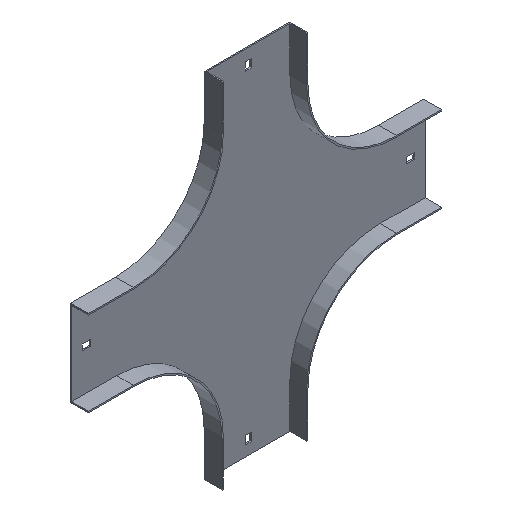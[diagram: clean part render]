
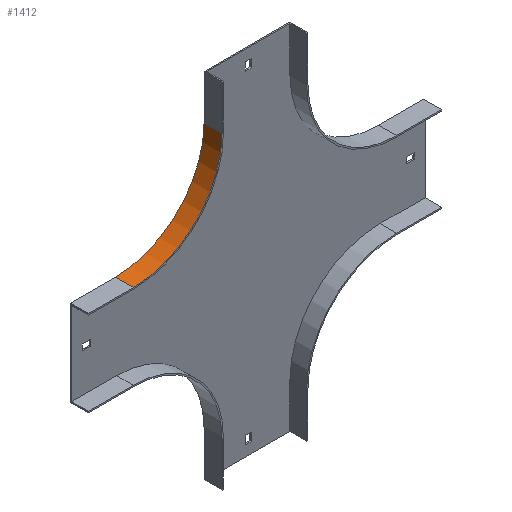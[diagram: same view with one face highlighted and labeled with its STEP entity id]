
A CAD part, isometric view. The second image highlights one B-rep face of the part: STEP entity #1412.
In plain terms, the highlighted cylindrical face has radius 98.5 mm (diameter 197 mm), a partial arc.
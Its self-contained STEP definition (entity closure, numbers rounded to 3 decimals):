
#41 = VERTEX_POINT ( 'NONE', #1065 ) ;
#126 = ORIENTED_EDGE ( 'NONE', *, *, #1429, .F. ) ;
#132 = LINE ( 'NONE', #396, #352 ) ;
#144 = DIRECTION ( 'NONE',  ( 0., 0., 1. ) ) ;
#150 = CARTESIAN_POINT ( 'NONE',  ( -292.5, -20., 0. ) ) ;
#177 = EDGE_CURVE ( 'NONE', #41, #382, #190, .T. ) ;
#190 = CIRCLE ( 'NONE', #1110, 98.5 ) ;
#201 = ORIENTED_EDGE ( 'NONE', *, *, #821, .F. ) ;
#259 = FACE_OUTER_BOUND ( 'NONE', #1010, .T. ) ;
#294 = DIRECTION ( 'NONE',  ( 0., 1., 0. ) ) ;
#351 = DIRECTION ( 'NONE',  ( 0., 1., 0. ) ) ;
#352 = VECTOR ( 'NONE', #923, 1000. ) ;
#382 = VERTEX_POINT ( 'NONE', #1037 ) ;
#396 = CARTESIAN_POINT ( 'NONE',  ( -292.5, -20., -98.5 ) ) ;
#426 = CARTESIAN_POINT ( 'NONE',  ( -194., -20., 0. ) ) ;
#459 = VECTOR ( 'NONE', #294, 1000. ) ;
#476 = CYLINDRICAL_SURFACE ( 'NONE', #1307, 98.5 ) ;
#521 = DIRECTION ( 'NONE',  ( 0., -1., 0. ) ) ;
#620 = VERTEX_POINT ( 'NONE', #912 ) ;
#801 = DIRECTION ( 'NONE',  ( 0., 0., 1. ) ) ;
#821 = EDGE_CURVE ( 'NONE', #620, #1373, #1583, .T. ) ;
#897 = DIRECTION ( 'NONE',  ( 0., 0., 1. ) ) ;
#912 = CARTESIAN_POINT ( 'NONE',  ( -292.5, 0., -98.5 ) ) ;
#923 = DIRECTION ( 'NONE',  ( 0., 1., 0. ) ) ;
#983 = EDGE_CURVE ( 'NONE', #382, #1373, #1333, .T. ) ;
#994 = CARTESIAN_POINT ( 'NONE',  ( -292.5, -20., 0. ) ) ;
#1010 = EDGE_LOOP ( 'NONE', ( #201, #126, #1406, #1348 ) ) ;
#1025 = CARTESIAN_POINT ( 'NONE',  ( -292.5, 0., 0. ) ) ;
#1037 = CARTESIAN_POINT ( 'NONE',  ( -194., -20., 0. ) ) ;
#1065 = CARTESIAN_POINT ( 'NONE',  ( -292.5, -20., -98.5 ) ) ;
#1110 = AXIS2_PLACEMENT_3D ( 'NONE', #150, #521, #144 ) ;
#1148 = CARTESIAN_POINT ( 'NONE',  ( -194., 0., 0. ) ) ;
#1307 = AXIS2_PLACEMENT_3D ( 'NONE', #994, #351, #801 ) ;
#1333 = LINE ( 'NONE', #426, #459 ) ;
#1348 = ORIENTED_EDGE ( 'NONE', *, *, #983, .T. ) ;
#1373 = VERTEX_POINT ( 'NONE', #1148 ) ;
#1406 = ORIENTED_EDGE ( 'NONE', *, *, #177, .T. ) ;
#1412 = ADVANCED_FACE ( 'NONE', ( #259 ), #476, .F. ) ;
#1429 = EDGE_CURVE ( 'NONE', #41, #620, #132, .T. ) ;
#1529 = DIRECTION ( 'NONE',  ( 0., -1., 0. ) ) ;
#1532 = AXIS2_PLACEMENT_3D ( 'NONE', #1025, #1529, #897 ) ;
#1583 = CIRCLE ( 'NONE', #1532, 98.5 ) ;
